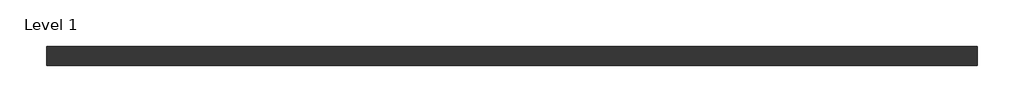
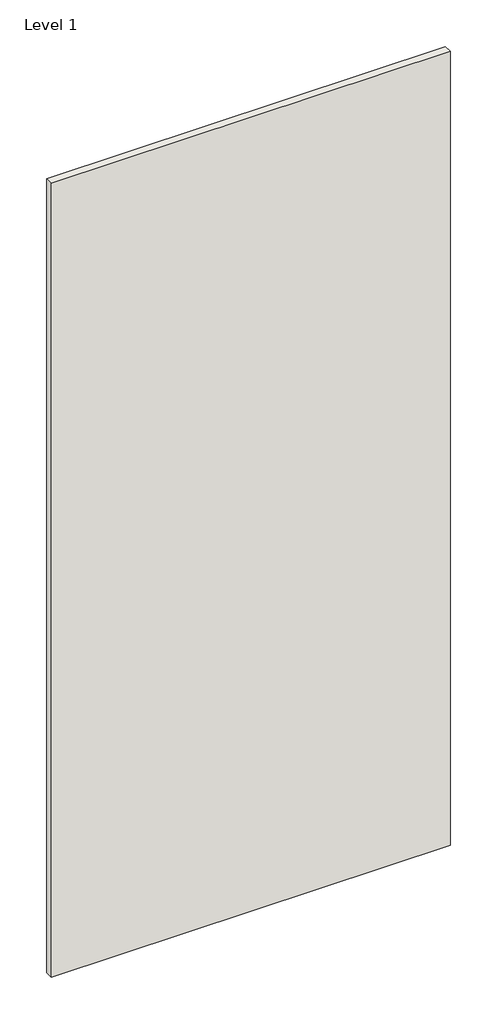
# One storey: 1 wall.
"""IFC4 building model written with IfcOpenShell, lengths in millimetres."""

from ifc_helpers import new_model, si_unit, origin, origin_with_axes, place, context, project, spatial, polyline, outline, extrude, element, save

model = new_model("IFC4")

# Units and contexts
model_context = context("Model", 3, world=origin())
ifc_project = project(units=[si_unit("LENGTHUNIT", "METRE", prefix="MILLI")], contexts=[model_context])

# Site, building, storey
site = spatial("IfcSite", under=ifc_project)
building = spatial("IfcBuilding", under=site)
storey = spatial("IfcBuildingStorey", under=building, Name="Level 1", Elevation=0.0)

# Wall
placement = place(None, origin())
element("IfcWall", 1, ObjectType="Interior-Steel Frame-Laminated Services-CSR3582-39mm", at=placement, inside=storey, context=model_context, shape_type="SweptSolid", body=[
    extrude(outline(polyline([(496.7739124, -4128.093671), (2396.7739124, -4128.093671), (2396.7739124, -4167.093671), (496.7739124, -4167.093671), (496.7739124, -4128.093671)])), origin_with_axes(), (0.0, 0.0, 1.0), 4000.0),
])

save(model, "model.ifc")
